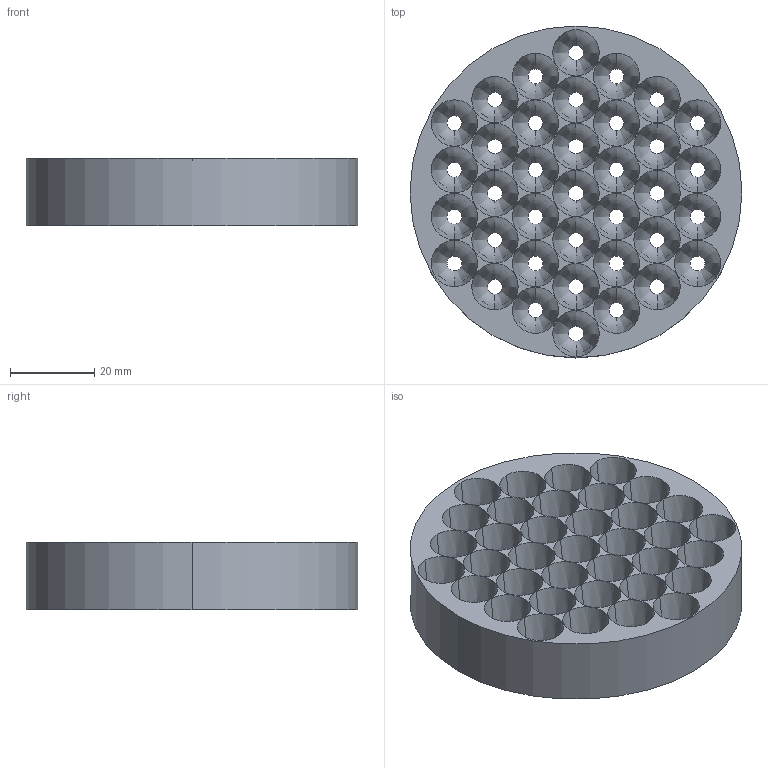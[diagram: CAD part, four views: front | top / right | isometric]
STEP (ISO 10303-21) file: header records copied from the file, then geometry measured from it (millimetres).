
FILE_DESCRIPTION (( 'STEP AP214' ), '1' );
FILE_NAME ('Reflector-Array-V3.stp', '2020-01-07T00:23:32', ( '' ), ( '' ), 'SwSTEP 2.0', 'SolidWorks 2019', '' );
FILE_SCHEMA (( 'AUTOMOTIVE_DESIGN' ));
Length unit declared in the file: inch
Products named in the file (1): Reflector-Array-V3
Bounding box: 78.74 x 78.74 x 16 mm (x, y, z)
Volume: 41697.7 mm3; surface area: 26278.1 mm2
Topology: 1 solids, 1 shells, 78 faces, 228 edges, 152 vertices
Faces by surface type: bspline 74, cylinder 2, plane 2
Entity records: 5240 total; most frequent: CARTESIAN_POINT 3271, ORIENTED_EDGE 456, DIRECTION 316, EDGE_CURVE 228, AXIS2_PLACEMENT_3D 157, CIRCLE 152, VERTEX_POINT 152, EDGE_LOOP 152
